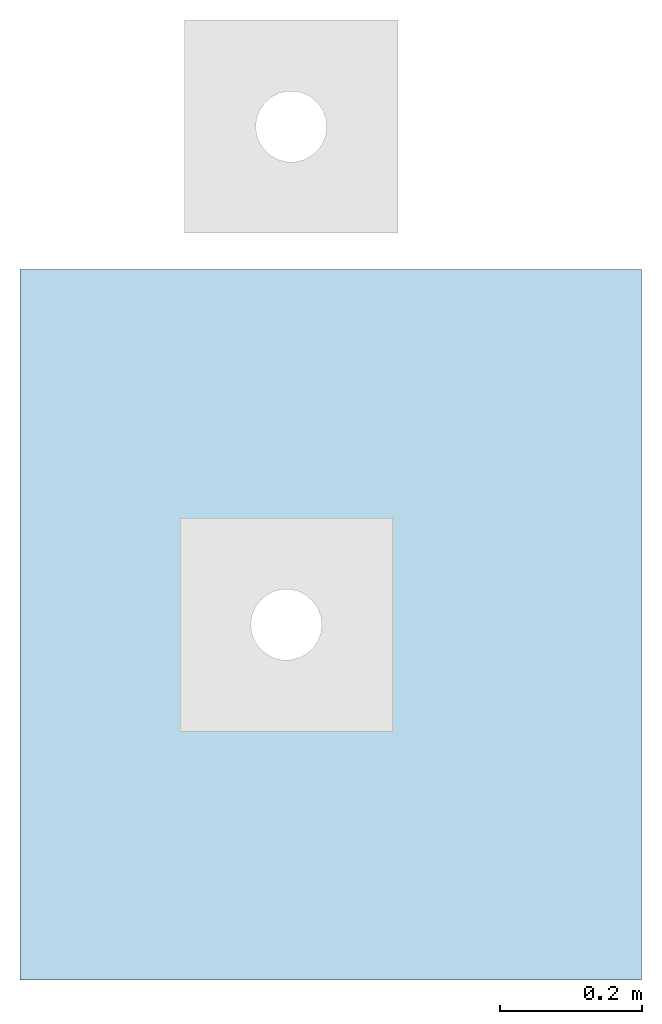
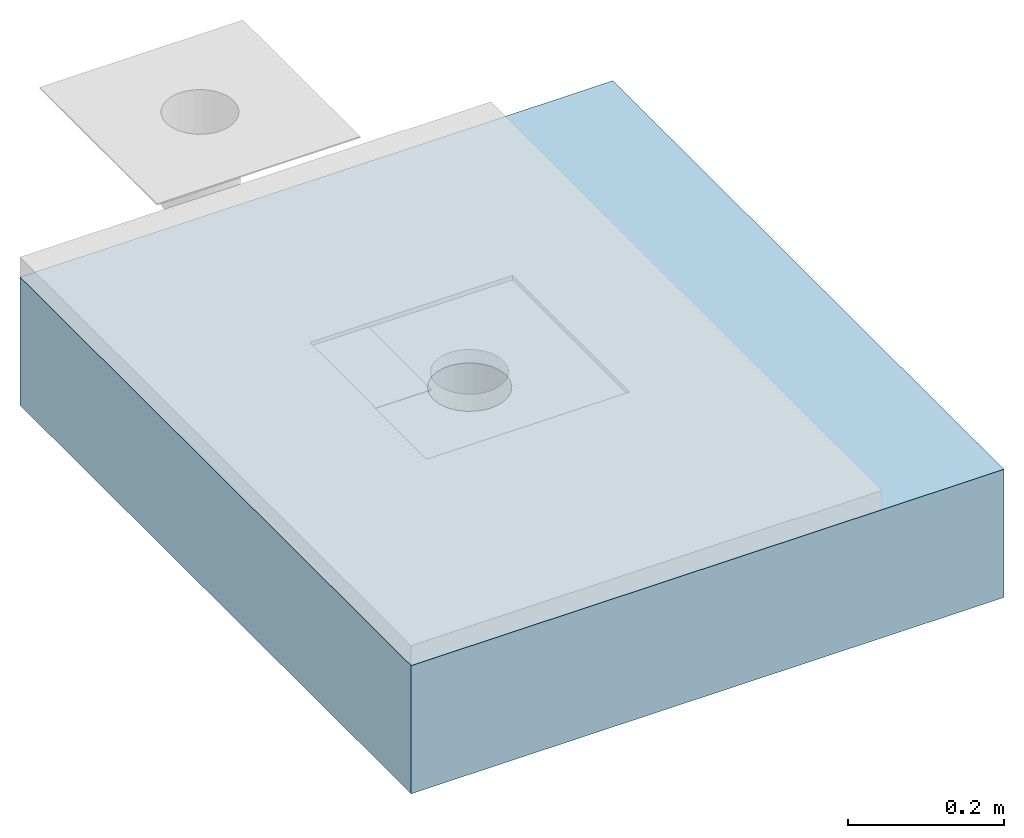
# One storey, part 1 of 3: 1 slab, 1 opening.
"""IFC2X3 building model written with IfcOpenShell, lengths in metres."""

import ifcopenshell
import ifcopenshell.guid

model = None  # the IFC model being written
_history = None  # IfcOwnerHistory: only IFC2X3 demands one
_inside = {}  # id of a spatial element -> (the spatial element, [elements in it])
_under = {}  # id of a project, library or spatial element -> (it, [spatial elements below it])
_declared = {}  # id of a project -> (the project, [libraries it declares])
_typed = {}  # id of a type object -> (the type object, [elements of that type])
_made_of = {}  # id of a material, layer set ... -> (it, [elements and type objects made of it])


def new_model(schema):
    """Start an empty IFC model of exactly this schema.

    Asked for "IFC4X3", IfcOpenShell would pick the latest addendum, in which some entities
    have other attributes; the version numbers below select the first issue.
    IFC2X3 requires an IfcOwnerHistory on every rooted entity: one is made here for all.
    """
    global model, _history
    if schema == "IFC4X3":
        model = ifcopenshell.file(schema_version=(4, 3, 0, 0))
    else:
        model = ifcopenshell.file(schema=schema)
    _inside.clear()
    _under.clear()
    _declared.clear()
    _typed.clear()
    _made_of.clear()
    _history = None
    if model.schema == "IFC2X3":
        org = make("IfcOrganization", Name="unknown")
        user = make(
            "IfcPersonAndOrganization",
            ThePerson=make("IfcPerson", FamilyName="unknown"),
            TheOrganization=org,
        )
        app = make(
            "IfcApplication",
            ApplicationDeveloper=org,
            Version="unknown",
            ApplicationFullName="unknown",
            ApplicationIdentifier="unknown",
        )
        _history = make(
            "IfcOwnerHistory",
            OwningUser=user,
            OwningApplication=app,
            ChangeAction="ADDED",
            CreationDate=0,
        )
    return model


def make(cls, **values):
    """One entity of the class cls with the attributes given. An attribute that is None is left unset."""
    return model.create_entity(
        cls, **{name: value for name, value in values.items() if value is not None}
    )


def entity(cls, *values):
    """Any entity or typed value of the class cls, its attributes in the order of the schema. None: left unset."""
    e = model.create_entity(cls)
    for i, value in enumerate(values):
        if value is not None:
            e[i] = value
    return e


def rooted(cls, **values):
    """An entity with a GlobalId (a new one), such as an element, a storey or a relation."""
    return make(cls, GlobalId=ifcopenshell.guid.new(), OwnerHistory=_history, **values)


def si_unit(unit_type, name, prefix=None):
    """IfcSIUnit, for example si_unit("LENGTHUNIT", "METRE", prefix="MILLI")."""
    return make("IfcSIUnit", UnitType=unit_type, Prefix=prefix, Name=name)


def converted_unit(unit_type, name, factor, base, dimensions=None, offset=None):
    """IfcConversionBasedUnit, such as the inch: factor (a typed value) times the base unit."""
    return make(
        "IfcConversionBasedUnit"
        if offset is None
        else "IfcConversionBasedUnitWithOffset",
        ConversionOffset=offset,
        Dimensions=None
        if dimensions is None
        else entity("IfcDimensionalExponents", *dimensions),
        UnitType=unit_type,
        Name=name,
        ConversionFactor=make(
            "IfcMeasureWithUnit", ValueComponent=factor, UnitComponent=base
        ),
    )


def derived_unit(unit_type, elements):
    """IfcDerivedUnit: a product of units, each with its exponent."""
    return make(
        "IfcDerivedUnit",
        Elements=[
            make("IfcDerivedUnitElement", Unit=unit, Exponent=power)
            for unit, power in elements
        ],
        UnitType=unit_type,
    )


def assignment(units):
    """IfcUnitAssignment: the units of a project."""
    return None if units is None else make("IfcUnitAssignment", Units=units)


def point(xyz):
    """IfcCartesianPoint."""
    return None if xyz is None else make("IfcCartesianPoint", Coordinates=xyz)


def direction(xyz):
    """IfcDirection."""
    return None if xyz is None else make("IfcDirection", DirectionRatios=xyz)


def frame(location, z_axis=None, x_axis=None):
    """IfcAxis2Placement3D, a coordinate frame: its origin and axes. An axis left out is left unset."""
    return make(
        "IfcAxis2Placement3D",
        Location=point(location),
        Axis=direction(z_axis),
        RefDirection=direction(x_axis),
    )


def frame_2d(location, x_axis=None):
    """IfcAxis2Placement2D, a coordinate frame in the plane: its origin and x axis."""
    return make(
        "IfcAxis2Placement2D", Location=point(location), RefDirection=direction(x_axis)
    )


def origin():
    """The frame at (0, 0, 0) with its axes left unset."""
    return frame((0.0, 0.0, 0.0))


def origin_2d_with_axis():
    """The frame at (0, 0) in the plane with the x axis (1, 0) written out."""
    return frame_2d((0.0, 0.0), x_axis=(1.0, 0.0))


def place(relative_to, where):
    """IfcLocalPlacement: puts the frame where relative to a parent placement (None: the world)."""
    return make(
        "IfcLocalPlacement", PlacementRelTo=relative_to, RelativePlacement=where
    )


def context(
    kind, dimensions, precision=None, world=None, true_north=None, identifier=None
):
    """IfcGeometricRepresentationContext, for example the 3D "Model" context."""
    return make(
        "IfcGeometricRepresentationContext",
        ContextIdentifier=identifier,
        ContextType=kind,
        CoordinateSpaceDimension=dimensions,
        Precision=precision,
        WorldCoordinateSystem=world,
        TrueNorth=true_north,
    )


def subcontext(parent, identifier, kind, view, scale=None):
    """IfcGeometricRepresentationSubContext, for example "Body" below "Model"."""
    return make(
        "IfcGeometricRepresentationSubContext",
        ContextIdentifier=identifier,
        ContextType=kind,
        ParentContext=parent,
        TargetScale=scale,
        TargetView=view,
    )


def project(units=None, contexts=None):
    """IfcProject with its units and contexts."""
    return rooted(
        "IfcProject",
        Name="project",
        RepresentationContexts=contexts,
        UnitsInContext=assignment(units),
    )


def spatial(cls, under=None, at=None, **own):
    """A site, building, storey or space (cls), placed at a placement, below another one or the project."""
    s = rooted(cls, ObjectPlacement=at, **own)
    if under is not None:
        _under.setdefault(under.id(), (under, []))[1].append(s)
    return s


def profile(cls, at=None, kind="AREA", **sizes):
    """A parametric profile (cls). Its sizes go by their IFC names, for example OverallWidth=200.0."""
    return make(cls, ProfileType=kind, Position=at, **sizes)


def rectangle(**sizes):
    """IfcRectangleProfileDef."""
    return profile("IfcRectangleProfileDef", **sizes)


def circle(**sizes):
    """IfcCircleProfileDef."""
    return profile("IfcCircleProfileDef", **sizes)


def extrude(swept, where, along, depth):
    """IfcExtrudedAreaSolid: the profile swept, set in the frame where, extruded along a direction by depth."""
    return make(
        "IfcExtrudedAreaSolid",
        SweptArea=swept,
        Position=where,
        ExtrudedDirection=direction(along),
        Depth=depth,
    )


def shape(context_of_items, identifier, shape_type, items):
    """IfcShapeRepresentation: the items that make up one representation, for example the "Body"."""
    return make(
        "IfcShapeRepresentation",
        ContextOfItems=context_of_items,
        RepresentationIdentifier=identifier,
        RepresentationType=shape_type,
        Items=items,
    )


def material(Name=None, Category=None):
    """IfcMaterial."""
    return make("IfcMaterial", Name=Name, Category=Category)


def layer(
    of_material, thickness, ventilated=None, Name=None, Category=None, Priority=None
):
    """IfcMaterialLayer: one layer of a wall or slab, of a material (None: an air gap)."""
    return make(
        "IfcMaterialLayer",
        Material=of_material,
        LayerThickness=thickness,
        IsVentilated=ventilated,
        Name=Name,
        Category=Category,
        Priority=Priority,
    )


def layer_set(layers, Name=None):
    """IfcMaterialLayerSet."""
    return make("IfcMaterialLayerSet", MaterialLayers=layers, LayerSetName=Name)


def layer_usage(for_layer_set, set_direction, sense, offset, extent=None):
    """IfcMaterialLayerSetUsage: how a layer set lies in its element."""
    return make(
        "IfcMaterialLayerSetUsage",
        ForLayerSet=for_layer_set,
        LayerSetDirection=set_direction,
        DirectionSense=sense,
        OffsetFromReferenceLine=offset,
        ReferenceExtent=extent,
    )


def made_of(thing, what):
    """Note that an element or type object is made of a material, layer set ...; save() writes the relation."""
    if what is not None:
        _made_of.setdefault(what.id(), (what, []))[1].append(thing)
    return thing


def type_object(cls, material=None, **own):
    """A type object (cls), such as IfcWallType, which elements share."""
    return made_of(rooted(cls, **own), material)


def element(
    cls,
    number,
    at=None,
    inside=None,
    cuts=None,
    type_object=None,
    material=None,
    context=None,
    identifier="Body",
    shape_type=None,
    held_by="IfcProductDefinitionShape",
    body=None,
    shapes=None,
    **own,
):
    """One element of the class cls, such as IfcWall. Its Tag is "e" and its number.

    at: its placement. inside: the storey or other place that contains it. cuts: it is an
    opening in that element (IfcRelVoidsElement). A single representation is given by context,
    identifier, shape_type and body (its items); several are given by shapes. held_by: the class
    of the entity that holds the representations. save() writes the other relations.
    """
    e = rooted(cls, Tag="e%d" % number, ObjectPlacement=at, **own)
    if body is not None:
        shapes = [shape(context, identifier, shape_type, body)]
    if shapes is not None:
        e.Representation = make(held_by, Representations=shapes)
    if inside is not None:
        _inside.setdefault(inside.id(), (inside, []))[1].append(e)
    if cuts is not None:
        rooted(
            "IfcRelVoidsElement", RelatingBuildingElement=cuts, RelatedOpeningElement=e
        )
    if type_object is not None:
        _typed.setdefault(type_object.id(), (type_object, []))[1].append(e)
    return made_of(e, material)


def aggregate(whole, parts):
    """IfcRelAggregates: a whole, such as a stair, and the parts it consists of."""
    return rooted("IfcRelAggregates", RelatingObject=whole, RelatedObjects=parts)


def save(model, path):
    """Write the relations noted so far, then the file.

    IfcRelAggregates (storeys below a building ...), IfcRelContainedInSpatialStructure (elements
    in a storey), IfcRelDefinesByType, IfcRelAssociatesMaterial and IfcRelDeclares: one each for
    every whole, place, type object, material and project.
    """
    for whole, parts in _under.values():
        aggregate(whole, parts)
    for where, things in _inside.values():
        rooted(
            "IfcRelContainedInSpatialStructure",
            RelatedElements=things,
            RelatingStructure=where,
        )
    for kind, things in _typed.values():
        rooted("IfcRelDefinesByType", RelatedObjects=things, RelatingType=kind)
    for what, things in _made_of.values():
        rooted("IfcRelAssociatesMaterial", RelatedObjects=things, RelatingMaterial=what)
    for by, libraries in _declared.values():
        rooted("IfcRelDeclares", RelatingContext=by, RelatedDefinitions=libraries)
    model.write(path)


model = new_model("IFC2X3")

# Units and contexts
model_context = context("Model", 3, precision=1e-05, world=origin(), true_north=direction((6.123031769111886e-17, 1.0)))
body_context = subcontext(model_context, "Body", "Model", "MODEL_VIEW")
ifc_project = project(units=[si_unit("LENGTHUNIT", "METRE"), si_unit("AREAUNIT", "SQUARE_METRE"), si_unit("VOLUMEUNIT", "CUBIC_METRE"), converted_unit("PLANEANGLEUNIT", "DEGREE", entity("IfcRatioMeasure", 0.017453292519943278), si_unit("PLANEANGLEUNIT", "RADIAN"), dimensions=[0, 0, 0, 0, 0, 0, 0]), si_unit("MASSUNIT", "GRAM", prefix="KILO"), derived_unit("MASSDENSITYUNIT", [(si_unit("MASSUNIT", "GRAM", prefix="KILO"), 1), (si_unit("LENGTHUNIT", "METRE"), -3)]), derived_unit("IONCONCENTRATIONUNIT", [(si_unit("MASSUNIT", "GRAM", prefix="KILO"), 1), (si_unit("LENGTHUNIT", "METRE"), -3)]), derived_unit("MOMENTOFINERTIAUNIT", [(si_unit("LENGTHUNIT", "METRE"), 4)]), si_unit("TIMEUNIT", "SECOND"), si_unit("FREQUENCYUNIT", "HERTZ"), si_unit("THERMODYNAMICTEMPERATUREUNIT", "DEGREE_CELSIUS"), derived_unit("THERMALTRANSMITTANCEUNIT", [(si_unit("MASSUNIT", "GRAM", prefix="KILO"), 1), (si_unit("THERMODYNAMICTEMPERATUREUNIT", "KELVIN"), -1), (si_unit("TIMEUNIT", "SECOND"), -3)]), derived_unit("THERMALCONDUCTANCEUNIT", [(si_unit("MASSUNIT", "GRAM", prefix="KILO"), 1), (si_unit("THERMODYNAMICTEMPERATUREUNIT", "KELVIN"), -1), (si_unit("TIMEUNIT", "SECOND"), -3), (si_unit("LENGTHUNIT", "METRE"), 1)]), derived_unit("VOLUMETRICFLOWRATEUNIT", [(si_unit("LENGTHUNIT", "METRE"), 3), (si_unit("TIMEUNIT", "SECOND"), -1)]), derived_unit("MASSFLOWRATEUNIT", [(si_unit("MASSUNIT", "GRAM", prefix="KILO"), 1), (si_unit("TIMEUNIT", "SECOND"), -1)]), derived_unit("ROTATIONALFREQUENCYUNIT", [(si_unit("TIMEUNIT", "SECOND"), -1)]), si_unit("ELECTRICCURRENTUNIT", "AMPERE"), si_unit("ELECTRICVOLTAGEUNIT", "VOLT"), si_unit("POWERUNIT", "WATT"), si_unit("FORCEUNIT", "NEWTON", prefix="KILO"), si_unit("ILLUMINANCEUNIT", "LUX"), si_unit("LUMINOUSFLUXUNIT", "LUMEN"), si_unit("LUMINOUSINTENSITYUNIT", "CANDELA"), derived_unit("USERDEFINED", [(si_unit("MASSUNIT", "GRAM", prefix="KILO"), -1), (si_unit("LENGTHUNIT", "METRE"), -2), (si_unit("TIMEUNIT", "SECOND"), 3), (si_unit("LUMINOUSFLUXUNIT", "LUMEN"), 1)]), derived_unit("USERDEFINED", [(si_unit("MASSUNIT", "GRAM", prefix="KILO"), 1), (si_unit("TIMEUNIT", "SECOND"), -3), (si_unit("LENGTHUNIT", "METRE"), 3), (si_unit("ELECTRICCURRENTUNIT", "AMPERE"), -2)]), derived_unit("SOUNDPOWERUNIT", [(si_unit("MASSUNIT", "GRAM", prefix="KILO"), 1), (si_unit("TIMEUNIT", "SECOND"), -3), (si_unit("LENGTHUNIT", "METRE"), 2)]), derived_unit("SOUNDPRESSUREUNIT", [(si_unit("MASSUNIT", "GRAM", prefix="KILO"), 1), (si_unit("LENGTHUNIT", "METRE"), -1), (si_unit("TIMEUNIT", "SECOND"), -2)]), derived_unit("LINEARVELOCITYUNIT", [(si_unit("LENGTHUNIT", "METRE"), 1), (si_unit("TIMEUNIT", "SECOND"), -1)]), si_unit("PRESSUREUNIT", "PASCAL"), derived_unit("USERDEFINED", [(si_unit("MASSUNIT", "GRAM", prefix="KILO"), 1), (si_unit("LENGTHUNIT", "METRE"), -2), (si_unit("TIMEUNIT", "SECOND"), -2)]), derived_unit("LINEARFORCEUNIT", [(si_unit("MASSUNIT", "GRAM", prefix="KILO"), 1), (si_unit("TIMEUNIT", "SECOND"), -2)]), derived_unit("PLANARFORCEUNIT", [(si_unit("MASSUNIT", "GRAM", prefix="KILO"), 1), (si_unit("LENGTHUNIT", "METRE"), -1), (si_unit("TIMEUNIT", "SECOND"), -2)]), derived_unit("SPECIFICHEATCAPACITYUNIT", [(si_unit("THERMODYNAMICTEMPERATUREUNIT", "KELVIN"), -1), (si_unit("LENGTHUNIT", "METRE"), 2), (si_unit("TIMEUNIT", "SECOND"), -2)]), derived_unit("HEATINGVALUEUNIT", [(si_unit("LENGTHUNIT", "METRE"), 2), (si_unit("TIMEUNIT", "SECOND"), -2)]), derived_unit("VAPORPERMEABILITYUNIT", [(si_unit("LENGTHUNIT", "METRE"), -1), (si_unit("TIMEUNIT", "SECOND"), 1)]), derived_unit("DYNAMICVISCOSITYUNIT", [(si_unit("MASSUNIT", "GRAM", prefix="KILO"), 1), (si_unit("TIMEUNIT", "SECOND"), -1), (si_unit("LENGTHUNIT", "METRE"), -1)]), derived_unit("THERMALEXPANSIONCOEFFICIENTUNIT", [(si_unit("THERMODYNAMICTEMPERATUREUNIT", "KELVIN"), -1)]), derived_unit("MODULUSOFELASTICITYUNIT", [(si_unit("MASSUNIT", "GRAM", prefix="KILO"), 1), (si_unit("LENGTHUNIT", "METRE"), -1), (si_unit("TIMEUNIT", "SECOND"), -2)]), derived_unit("ISOTHERMALMOISTURECAPACITYUNIT", [(si_unit("LENGTHUNIT", "METRE"), 3), (si_unit("MASSUNIT", "GRAM", prefix="KILO"), -1)]), derived_unit("MOISTUREDIFFUSIVITYUNIT", [(si_unit("TIMEUNIT", "SECOND"), -1), (si_unit("LENGTHUNIT", "METRE"), 2)])], contexts=[model_context])

# Site, building, storey
site_placement = place(None, origin())
site = spatial("IfcSite", under=ifc_project, at=site_placement, Name="Default", CompositionType="ELEMENT")
building_placement = place(site_placement, origin())
building = spatial("IfcBuilding", under=site, at=building_placement, CompositionType="ELEMENT")
storey_placement = place(building_placement, frame((0.0, 0.0, -0.0025237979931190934)))
storey = spatial("IfcBuildingStorey", under=building, at=storey_placement, Name="ARQ Térreo", CompositionType="ELEMENT", Elevation=-0.0025237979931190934)

# Slab, opening
ifc_material = material(Name="#concreto")
ifc_layer = layer(ifc_material, 0.2)
ifc_layer_set = layer_set([ifc_layer], Name="Piso:Piso:LAJE CONCRETO")
ifc_layer_usage = layer_usage(ifc_layer_set, "AXIS3", "POSITIVE", 0.0)
slab_type = type_object("IfcSlabType", Name="Piso:Piso:LAJE CONCRETO", PredefinedType="FLOOR", material=ifc_layer_set)
slab_placement = place(storey_placement, frame((0.5478103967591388, -1.7380570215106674, -0.20000000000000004)))
slab = element("IfcSlab", 1, at=slab_placement, inside=storey, type_object=slab_type, material=ifc_layer_usage, Name="Piso:Piso:LAJE CONCRETO", ObjectType="Piso:Piso:LAJE CONCRETO", PredefinedType="FLOOR", context=body_context, shape_type="SweptSolid", body=[
    extrude(rectangle(XDim=0.8750000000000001, YDim=0.9999999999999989, at=origin_2d_with_axis()), frame((0.43750000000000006, 0.4999999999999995, 0.2), z_axis=(0.0, 0.0, -1.0), x_axis=(-1.0, 0.0, 0.0)), (0.0, 0.0, 1.0), 0.2),
])
opening_placement = place(slab_placement, origin())
element("IfcOpeningElement", 2, at=opening_placement, cuts=slab, Name="Piso:Piso:LAJE CONCRETO", ObjectType="Opening", context=body_context, shape_type="SweptSolid", body=[
    extrude(circle(Radius=0.054, at=origin_2d_with_axis()), frame((0.3749999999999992, 0.4999999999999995, 0.2), z_axis=(0.0, 0.0, -1.0), x_axis=(1.0, 0.0, 0.0)), (0.0, 0.0, 1.0), 0.2),
])

save(model, "model.ifc")
